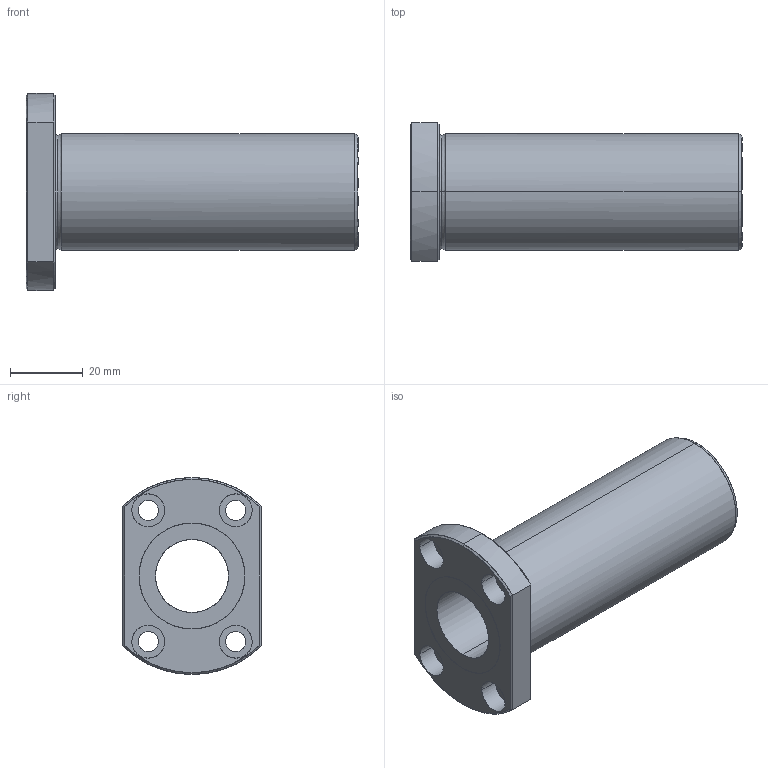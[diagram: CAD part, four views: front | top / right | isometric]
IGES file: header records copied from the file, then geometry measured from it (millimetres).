
Global section: file name: No Iges File Name specified; native system: AutoDesk Inventor R10; preprocessor: AutoDesk Inventor Iges Exporter R10; author: No Author specified; organization: No Organization specified; date: 20101216.154600; units: millimetre
Bounding box: 91 x 38 x 54 mm (x, y, z)
Surface area: 18956.1 mm2 (no closed solid volume)
Topology: 0 solids, 0 shells, 57 faces, 360 edges, 360 vertices
Faces by surface type: bspline 57
